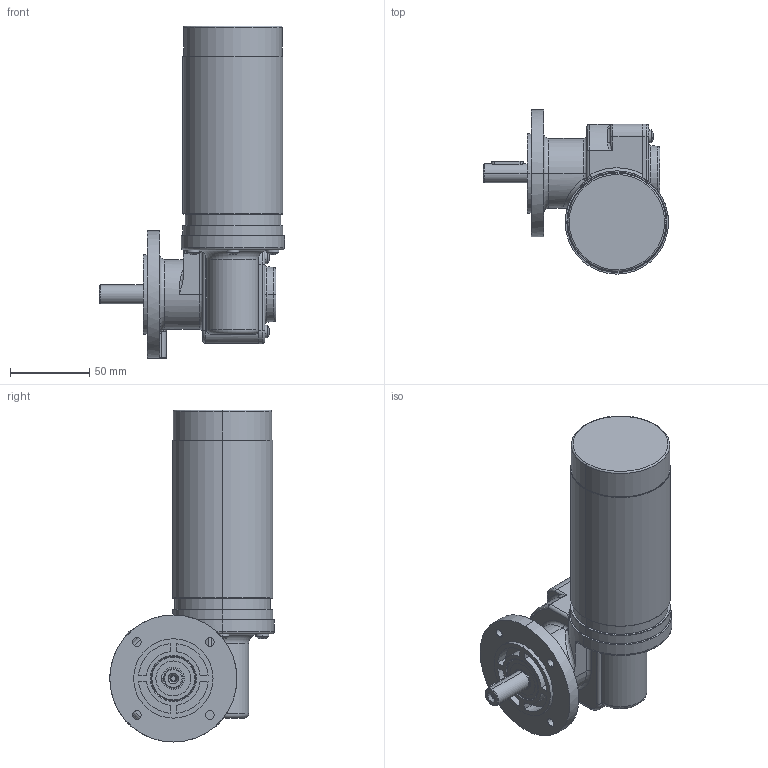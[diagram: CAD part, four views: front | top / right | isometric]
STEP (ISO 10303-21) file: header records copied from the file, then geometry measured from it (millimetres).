
FILE_DESCRIPTION (( 'STEP AP214' ), '1' );
FILE_NAME ('SN5FR_93W_3300Upm.STEP', '2021-03-04T09:38:28', ( '' ), ( '' ), 'SwSTEP 2.0', 'SolidWorks 2019', '' );
FILE_SCHEMA (( 'AUTOMOTIVE_DESIGN' ));
Length unit declared in the file: millimetre
Products named in the file (1): SN5FR_93W_3300Upm
Bounding box: 116.5 x 103.5 x 209 mm (x, y, z)
Surface area: 71806.1 mm2 (no closed solid volume)
Topology: 0 solids, 14 shells, 341 faces, 979 edges, 656 vertices
Faces by surface type: plane 126, cylinder 95, torus 46, cone 45, sphere 16, bspline 13
Entity records: 16335 total; most frequent: CARTESIAN_POINT 3511, DIRECTION 2061, ORIENTED_EDGE 1716, EDGE_CURVE 978, AXIS2_PLACEMENT_3D 864, VERTEX_POINT 656, CIRCLE 535, EDGE_LOOP 389
